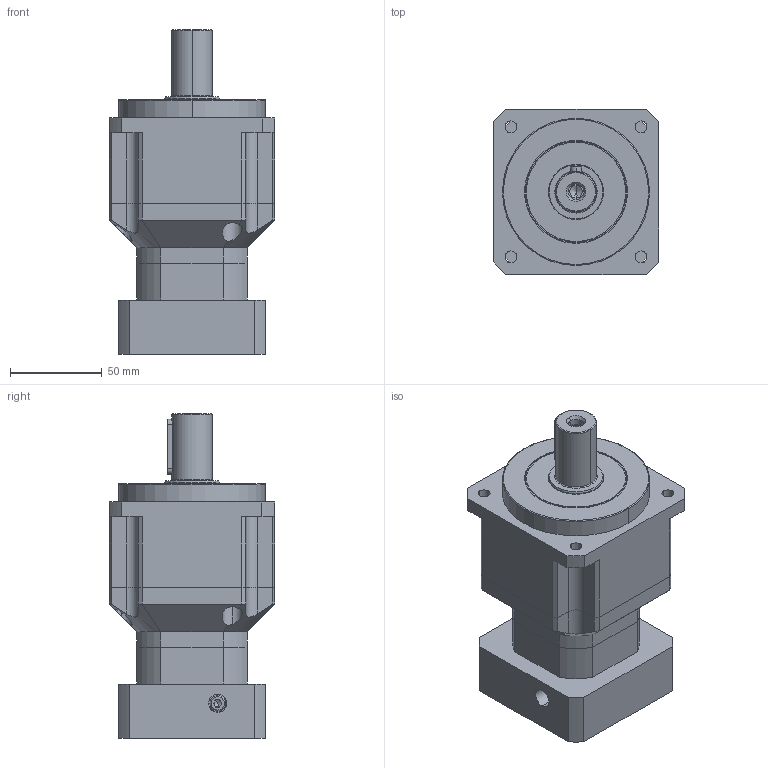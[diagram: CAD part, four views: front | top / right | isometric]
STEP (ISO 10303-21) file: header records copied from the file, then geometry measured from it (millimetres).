
FILE_DESCRIPTION(/* description */ (''),/* implementation_level */ '2;1');
FILE_NAME(/* name */ 'XAB090-L2-[ ]-P2 19-35-70-90-M6 标准22轴 T型1.step',/* time_stamp */ '2023-05-19T18:11:08+08:00',/* author */ (''),/* organization */ (''),/* preprocessor_version */ 'ST-DEVELOPER v16',/* originating_system */ 'SIEMENS PLM Software NX 10.0',/* authorisation */ '');
FILE_SCHEMA (('AUTOMOTIVE_DESIGN { 1 0 10303 214 3 1 1 1 }'));
Length unit declared in the file: millimetre
Products named in the file (1): XAB090-L2-_ _-P2 19-35-70-90-M5 标准22\X2\8F74
\X0\  T型_step
Bounding box: 90 x 90 x 176.5 mm (x, y, z)
Volume: 497454.1 mm3; surface area: 129077.5 mm2
Topology: 10 solids, 10 shells, 470 faces, 1113 edges, 702 vertices
Faces by surface type: cylinder 220, plane 188, cone 42, torus 16, bspline 4
Entity records: 14185 total; most frequent: CARTESIAN_POINT 2717, DIRECTION 2479, ORIENTED_EDGE 2186, EDGE_CURVE 1093, AXIS2_PLACEMENT_3D 975, VERTEX_POINT 702, EDGE_LOOP 569, LINE 529
